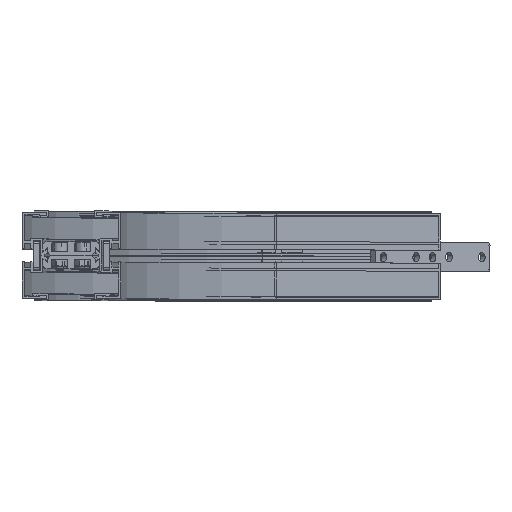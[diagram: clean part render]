
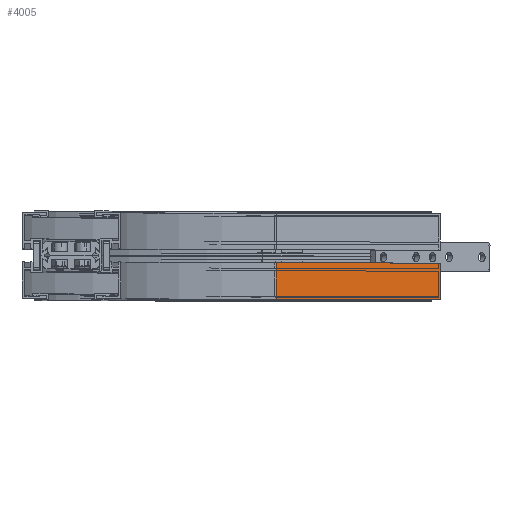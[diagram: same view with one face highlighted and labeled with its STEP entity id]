
A CAD part, top view. The second image highlights one B-rep face of the part: STEP entity #4005.
In plain terms, the highlighted planar face has unit normal (0.707, 0, 0.707) as drawn and (-0.707, 0, 0.707) by its records, which use the part's own axes.
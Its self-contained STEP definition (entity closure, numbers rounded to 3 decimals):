
#1399 = EDGE_CURVE ( 'NONE', #6396, #6392, #11877, .T. ) ;
#1401 = EDGE_CURVE ( 'NONE', #6392, #6374, #11883, .T. ) ;
#1402 = EDGE_CURVE ( 'NONE', #6391, #6374, #11886, .T. ) ;
#1403 = EDGE_CURVE ( 'NONE', #6396, #6391, #11869, .T. ) ;
#4005 = ADVANCED_FACE ( 'NONE', ( #14254 ), #14242, .F. ) ;
#4441 = ORIENTED_EDGE ( 'NONE', *, *, #1401, .T. ) ;
#4442 = ORIENTED_EDGE ( 'NONE', *, *, #1402, .F. ) ;
#4443 = ORIENTED_EDGE ( 'NONE', *, *, #1403, .F. ) ;
#4444 = ORIENTED_EDGE ( 'NONE', *, *, #1399, .T. ) ;
#4699 = EDGE_LOOP ( 'NONE', ( #4441, #4442, #4443, #4444 ) ) ;
#6374 = VERTEX_POINT ( 'NONE', #15018 ) ;
#6391 = VERTEX_POINT ( 'NONE', #15049 ) ;
#6392 = VERTEX_POINT ( 'NONE', #15051 ) ;
#6396 = VERTEX_POINT ( 'NONE', #15058 ) ;
#11869 = LINE ( 'NONE', #11890, #12519 ) ;
#11877 = LINE ( 'NONE', #11879, #12518 ) ;
#11879 = CARTESIAN_POINT ( 'NONE',  ( 664.923, 31.428, 317.92 ) ) ;
#11880 = DIRECTION ( 'NONE',  ( -0.707, 0., -0.707 ) ) ;
#11883 = LINE ( 'NONE', #11884, #12520 ) ;
#11884 = CARTESIAN_POINT ( 'NONE',  ( 523.501, 0., 176.499 ) ) ;
#11885 = DIRECTION ( 'NONE',  ( 0., -1., 0. ) ) ;
#11886 = LINE ( 'NONE', #11888, #12521 ) ;
#11888 = CARTESIAN_POINT ( 'NONE',  ( 664.923, 0., 317.92 ) ) ;
#11889 = DIRECTION ( 'NONE',  ( -0.707, 0., -0.707 ) ) ;
#11890 = CARTESIAN_POINT ( 'NONE',  ( 664.923, 0., 317.92 ) ) ;
#11891 = DIRECTION ( 'NONE',  ( 0., -1., 0. ) ) ;
#12518 = VECTOR ( 'NONE', #11880, 1000. ) ;
#12519 = VECTOR ( 'NONE', #11891, 1000. ) ;
#12520 = VECTOR ( 'NONE', #11885, 1000. ) ;
#12521 = VECTOR ( 'NONE', #11889, 1000. ) ;
#14242 = PLANE ( 'NONE',  #15670 ) ;
#14247 = CARTESIAN_POINT ( 'NONE',  ( 664.923, 0., 317.92 ) ) ;
#14254 = FACE_OUTER_BOUND ( 'NONE', #4699, .T. ) ;
#14258 = DIRECTION ( 'NONE',  ( 0.707, 0., -0.707 ) ) ;
#14260 = DIRECTION ( 'NONE',  ( -0.707, 0., -0.707 ) ) ;
#15018 = CARTESIAN_POINT ( 'NONE',  ( 523.501, 0., 176.499 ) ) ;
#15049 = CARTESIAN_POINT ( 'NONE',  ( 664.923, 0., 317.92 ) ) ;
#15051 = CARTESIAN_POINT ( 'NONE',  ( 523.501, 31.428, 176.499 ) ) ;
#15058 = CARTESIAN_POINT ( 'NONE',  ( 664.923, 31.428, 317.92 ) ) ;
#15670 = AXIS2_PLACEMENT_3D ( 'NONE', #14247, #14258, #14260 ) ;
